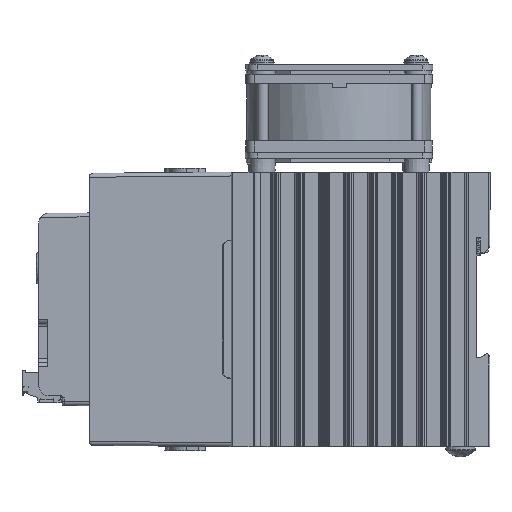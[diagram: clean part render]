
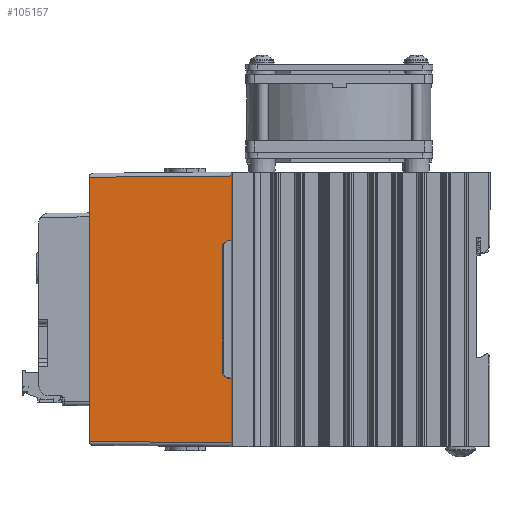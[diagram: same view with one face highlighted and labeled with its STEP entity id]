
A CAD part, left-side view. The second image highlights one B-rep face of the part: STEP entity #105157.
In plain terms, the highlighted planar face has unit normal (-1, 0.009, 0) as drawn and (1, 0, 0.009) by its records, which use the part's own axes.
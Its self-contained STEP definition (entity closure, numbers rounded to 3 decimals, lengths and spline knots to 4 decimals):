
#10671=FACE_OUTER_BOUND('',#16518,.T.);
#16518=EDGE_LOOP('',(#89519,#89520,#89521,#89522,#89523,#89524,#89525,#89526,
#89527,#89528));
#26741=LINE('',#181662,#38122);
#26871=LINE('',#182447,#38252);
#26877=LINE('',#182459,#38258);
#26881=LINE('',#182465,#38262);
#26883=LINE('',#182469,#38264);
#26885=LINE('',#182473,#38266);
#26886=LINE('',#182476,#38267);
#27231=LINE('',#183234,#38612);
#27233=LINE('',#183240,#38614);
#27234=LINE('',#183241,#38615);
#38122=VECTOR('',#136133,0.3937);
#38252=VECTOR('',#136509,0.3937);
#38258=VECTOR('',#136519,0.3937);
#38262=VECTOR('',#136527,0.3937);
#38264=VECTOR('',#136531,0.3937);
#38266=VECTOR('',#136535,0.3937);
#38267=VECTOR('',#136538,0.3937);
#38612=VECTOR('',#137263,0.3937);
#38614=VECTOR('',#137271,0.3937);
#38615=VECTOR('',#137272,0.3937);
#48089=VERTEX_POINT('',#181659);
#48090=VERTEX_POINT('',#181661);
#48193=VERTEX_POINT('',#182444);
#48194=VERTEX_POINT('',#182446);
#48197=VERTEX_POINT('',#182456);
#48198=VERTEX_POINT('',#182458);
#48199=VERTEX_POINT('',#182467);
#48200=VERTEX_POINT('',#182471);
#48201=VERTEX_POINT('',#182475);
#48401=VERTEX_POINT('',#183239);
#61977=EDGE_CURVE('',#48090,#48089,#26741,.T.);
#62165=EDGE_CURVE('',#48194,#48193,#26871,.T.);
#62171=EDGE_CURVE('',#48198,#48197,#26877,.T.);
#62175=EDGE_CURVE('',#48193,#48198,#26881,.T.);
#62177=EDGE_CURVE('',#48197,#48199,#26883,.T.);
#62179=EDGE_CURVE('',#48199,#48200,#26885,.T.);
#62180=EDGE_CURVE('',#48201,#48194,#26886,.T.);
#62546=EDGE_CURVE('',#48201,#48089,#27231,.T.);
#62549=EDGE_CURVE('',#48200,#48401,#27233,.T.);
#62550=EDGE_CURVE('',#48090,#48401,#27234,.T.);
#89519=ORIENTED_EDGE('',*,*,#62179,.T.);
#89520=ORIENTED_EDGE('',*,*,#62549,.T.);
#89521=ORIENTED_EDGE('',*,*,#62550,.F.);
#89522=ORIENTED_EDGE('',*,*,#61977,.T.);
#89523=ORIENTED_EDGE('',*,*,#62546,.F.);
#89524=ORIENTED_EDGE('',*,*,#62180,.T.);
#89525=ORIENTED_EDGE('',*,*,#62165,.T.);
#89526=ORIENTED_EDGE('',*,*,#62175,.T.);
#89527=ORIENTED_EDGE('',*,*,#62171,.T.);
#89528=ORIENTED_EDGE('',*,*,#62177,.T.);
#100245=PLANE('',#113171);
#105157=ADVANCED_FACE('',(#10671),#100245,.T.);
#113171=AXIS2_PLACEMENT_3D('',#183238,#137269,#137270);
#136133=DIRECTION('',(0.,-1.,0.));
#136509=DIRECTION('',(-0.009,0.009,1.));
#136519=DIRECTION('',(0.,1.,0.));
#136527=DIRECTION('',(-0.006,0.71,0.704));
#136531=DIRECTION('',(0.006,0.71,-0.704));
#136535=DIRECTION('',(0.009,0.009,-1.));
#136538=DIRECTION('',(0.,1.,0.));
#137263=DIRECTION('',(-0.009,0.009,1.));
#137269=DIRECTION('center_axis',(1.,0.,
0.009));
#137270=DIRECTION('ref_axis',(0.,1.,0.));
#137271=DIRECTION('',(0.,1.,0.));
#137272=DIRECTION('',(0.009,0.009,-1.));
#181659=CARTESIAN_POINT('',(1.3842,0.0658,1.811));
#181661=CARTESIAN_POINT('',(1.3842,3.4342,1.811));
#181662=CARTESIAN_POINT('',(1.3842,0.,1.811));
#182444=CARTESIAN_POINT('',(1.3995,0.8705,0.0521));
#182446=CARTESIAN_POINT('',(1.4,0.87,0.));
#182447=CARTESIAN_POINT('',(1.3996,0.8704,0.0436));
#182456=CARTESIAN_POINT('',(1.3991,2.5762,0.105));
#182458=CARTESIAN_POINT('',(1.3991,0.9238,0.105));
#182459=CARTESIAN_POINT('',(1.3991,3.0381,0.105));
#182465=CARTESIAN_POINT('',(1.3937,1.5503,0.726));
#182467=CARTESIAN_POINT('',(1.3995,2.6295,0.0521));
#182469=CARTESIAN_POINT('',(1.4015,2.859,-0.1754));
#182471=CARTESIAN_POINT('',(1.4,2.63,0.));
#182473=CARTESIAN_POINT('',(1.4,2.63,0.0023));
#182475=CARTESIAN_POINT('',(1.4,0.05,0.));
#182476=CARTESIAN_POINT('',(1.4,0.,0.));
#183234=CARTESIAN_POINT('',(1.3999,0.0501,0.0148));
#183238=CARTESIAN_POINT('Origin',(1.4,3.5,0.));
#183239=CARTESIAN_POINT('',(1.4,3.45,0.));
#183240=CARTESIAN_POINT('',(1.4,0.,0.));
#183241=CARTESIAN_POINT('',(1.4,3.45,0.0057));
